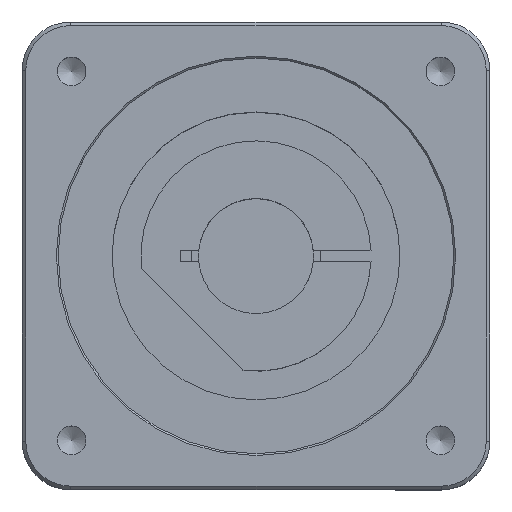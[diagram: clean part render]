
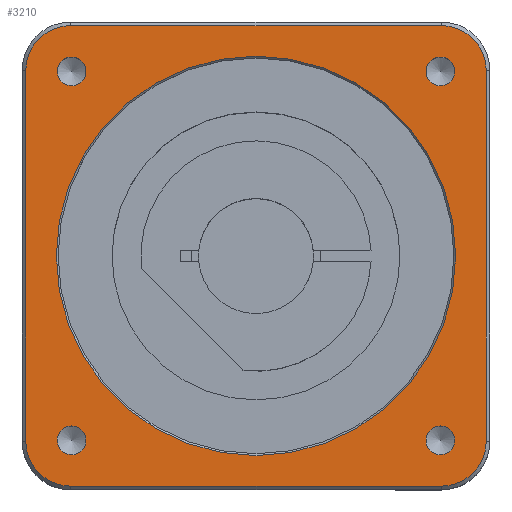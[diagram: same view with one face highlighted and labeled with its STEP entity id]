
A CAD part, top view. The second image highlights one B-rep face of the part: STEP entity #3210.
In plain terms, the highlighted planar face has unit normal (0, 0, 1).
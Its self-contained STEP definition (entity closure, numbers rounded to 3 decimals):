
#2297=CARTESIAN_POINT('',(51.265,47.265,42.0));
#2298=VERTEX_POINT('',#2297);
#2299=CARTESIAN_POINT('',(51.265,51.265,42.0));
#2300=DIRECTION('',(0.0,0.0,-1.0));
#2301=DIRECTION('',(0.0,-1.0,0.0));
#2302=AXIS2_PLACEMENT_3D('',#2299,#2300,#2301);
#2303=CIRCLE('',#2302,4.0);
#2304=EDGE_CURVE('',#2298,#2298,#2303,.T.);
#2376=CARTESIAN_POINT('',(47.265,-51.265,42.0));
#2377=VERTEX_POINT('',#2376);
#2378=CARTESIAN_POINT('',(51.265,-51.265,42.0));
#2379=DIRECTION('',(0.0,0.0,-1.0));
#2380=DIRECTION('',(-1.0,0.0,0.0));
#2381=AXIS2_PLACEMENT_3D('',#2378,#2379,#2380);
#2382=CIRCLE('',#2381,4.0);
#2383=EDGE_CURVE('',#2377,#2377,#2382,.T.);
#2455=CARTESIAN_POINT('',(-51.265,-47.265,42.0));
#2456=VERTEX_POINT('',#2455);
#2457=CARTESIAN_POINT('',(-51.265,-51.265,42.0));
#2458=DIRECTION('',(0.0,0.0,-1.0));
#2459=DIRECTION('',(0.0,1.0,0.0));
#2460=AXIS2_PLACEMENT_3D('',#2457,#2458,#2459);
#2461=CIRCLE('',#2460,4.0);
#2462=EDGE_CURVE('',#2456,#2456,#2461,.T.);
#2534=CARTESIAN_POINT('',(-47.265,51.265,42.0));
#2535=VERTEX_POINT('',#2534);
#2536=CARTESIAN_POINT('',(-51.265,51.265,42.0));
#2537=DIRECTION('',(0.0,0.0,-1.0));
#2538=DIRECTION('',(1.0,0.0,0.0));
#2539=AXIS2_PLACEMENT_3D('',#2536,#2537,#2538);
#2540=CIRCLE('',#2539,4.0);
#2541=EDGE_CURVE('',#2535,#2535,#2540,.T.);
#2953=CARTESIAN_POINT('',(-51.5,64.0,42.0));
#2954=VERTEX_POINT('',#2953);
#2961=CARTESIAN_POINT('',(51.5,64.0,42.0));
#2962=VERTEX_POINT('',#2961);
#2963=CARTESIAN_POINT('',(-51.5,64.0,42.0));
#2964=DIRECTION('',(1.0,0.0,0.0));
#2965=VECTOR('',#2964,103.0);
#2966=LINE('',#2963,#2965);
#2967=EDGE_CURVE('',#2954,#2962,#2966,.T.);
#2984=CARTESIAN_POINT('',(-64.0,51.5,42.0));
#2985=VERTEX_POINT('',#2984);
#2992=CARTESIAN_POINT('',(-51.5,51.5,42.0));
#2993=DIRECTION('',(0.0,0.0,-1.));
#2994=DIRECTION('',(-0.707,0.707,0.0));
#2995=AXIS2_PLACEMENT_3D('',#2992,#2993,#2994);
#2996=CIRCLE('',#2995,12.5);
#2997=EDGE_CURVE('',#2985,#2954,#2996,.T.);
#3009=CARTESIAN_POINT('',(64.0,51.5,42.0));
#3010=VERTEX_POINT('',#3009);
#3027=CARTESIAN_POINT('',(51.5,51.5,42.0));
#3028=DIRECTION('',(0.0,0.0,-1.));
#3029=DIRECTION('',(0.707,0.707,0.0));
#3030=AXIS2_PLACEMENT_3D('',#3027,#3028,#3029);
#3031=CIRCLE('',#3030,12.5);
#3032=EDGE_CURVE('',#2962,#3010,#3031,.T.);
#3042=CARTESIAN_POINT('',(-64.,-51.5,42.0));
#3043=VERTEX_POINT('',#3042);
#3050=CARTESIAN_POINT('',(-64.,-51.5,42.0));
#3051=DIRECTION('',(0.0,1.0,0.0));
#3052=VECTOR('',#3051,103.0);
#3053=LINE('',#3050,#3052);
#3054=EDGE_CURVE('',#3043,#2985,#3053,.T.);
#3066=CARTESIAN_POINT('',(64.0,-51.5,42.0));
#3067=VERTEX_POINT('',#3066);
#3083=CARTESIAN_POINT('',(64.0,51.5,42.0));
#3084=DIRECTION('',(0.0,-1.0,0.0));
#3085=VECTOR('',#3084,103.);
#3086=LINE('',#3083,#3085);
#3087=EDGE_CURVE('',#3010,#3067,#3086,.T.);
#3097=CARTESIAN_POINT('',(-51.5,-64.0,42.0));
#3098=VERTEX_POINT('',#3097);
#3105=CARTESIAN_POINT('',(-51.5,-51.5,42.0));
#3106=DIRECTION('',(0.0,0.0,-1.));
#3107=DIRECTION('',(-0.707,-0.707,0.0));
#3108=AXIS2_PLACEMENT_3D('',#3105,#3106,#3107);
#3109=CIRCLE('',#3108,12.5);
#3110=EDGE_CURVE('',#3098,#3043,#3109,.T.);
#3122=CARTESIAN_POINT('',(51.5,-64.,42.0));
#3123=VERTEX_POINT('',#3122);
#3140=CARTESIAN_POINT('',(51.5,-51.5,42.0));
#3141=DIRECTION('',(0.0,0.0,-1.));
#3142=DIRECTION('',(0.707,-0.707,0.0));
#3143=AXIS2_PLACEMENT_3D('',#3140,#3141,#3142);
#3144=CIRCLE('',#3143,12.5);
#3145=EDGE_CURVE('',#3067,#3123,#3144,.T.);
#3163=CARTESIAN_POINT('',(51.5,-64.,42.0));
#3164=DIRECTION('',(-1.0,0.0,0.0));
#3165=VECTOR('',#3164,103.);
#3166=LINE('',#3163,#3165);
#3167=EDGE_CURVE('',#3123,#3098,#3166,.T.);
#3172=CARTESIAN_POINT('',(0.0,0.,42.0));
#3173=DIRECTION('',(0.0,0.0,1.0));
#3174=DIRECTION('',(1.0,0.0,0.0));
#3175=AXIS2_PLACEMENT_3D('',#3172,#3173,#3174);
#3176=PLANE('',#3175);
#3177=ORIENTED_EDGE('',*,*,#2967,.F.);
#3178=ORIENTED_EDGE('',*,*,#2997,.F.);
#3179=ORIENTED_EDGE('',*,*,#3054,.F.);
#3180=ORIENTED_EDGE('',*,*,#3110,.F.);
#3181=ORIENTED_EDGE('',*,*,#3167,.F.);
#3182=ORIENTED_EDGE('',*,*,#3145,.F.);
#3183=ORIENTED_EDGE('',*,*,#3087,.F.);
#3184=ORIENTED_EDGE('',*,*,#3032,.F.);
#3185=EDGE_LOOP('',(#3177,#3178,#3179,#3180,#3181,#3182,#3183,#3184));
#3186=FACE_OUTER_BOUND('',#3185,.T.);
#3187=ORIENTED_EDGE('',*,*,#2304,.T.);
#3188=EDGE_LOOP('',(#3187));
#3189=FACE_BOUND('',#3188,.T.);
#3190=ORIENTED_EDGE('',*,*,#2383,.T.);
#3191=EDGE_LOOP('',(#3190));
#3192=FACE_BOUND('',#3191,.T.);
#3193=ORIENTED_EDGE('',*,*,#2462,.T.);
#3194=EDGE_LOOP('',(#3193));
#3195=FACE_BOUND('',#3194,.T.);
#3196=ORIENTED_EDGE('',*,*,#2541,.T.);
#3197=EDGE_LOOP('',(#3196));
#3198=FACE_BOUND('',#3197,.T.);
#3199=CARTESIAN_POINT('',(55.5,0.,42.0));
#3200=VERTEX_POINT('',#3199);
#3201=CARTESIAN_POINT('',(0.0,0.0,42.0));
#3202=DIRECTION('',(0.0,0.0,1.0));
#3203=DIRECTION('',(-1.0,0.0,0.0));
#3204=AXIS2_PLACEMENT_3D('',#3201,#3202,#3203);
#3205=CIRCLE('',#3204,55.5);
#3206=EDGE_CURVE('',#3200,#3200,#3205,.T.);
#3207=ORIENTED_EDGE('',*,*,#3206,.F.);
#3208=EDGE_LOOP('',(#3207));
#3209=FACE_BOUND('',#3208,.T.);
#3210=ADVANCED_FACE('',(#3186,#3189,#3192,#3195,#3198,#3209),#3176,.T.);
